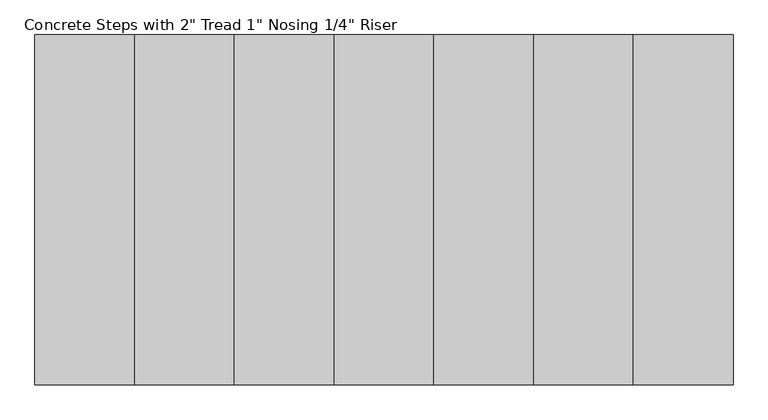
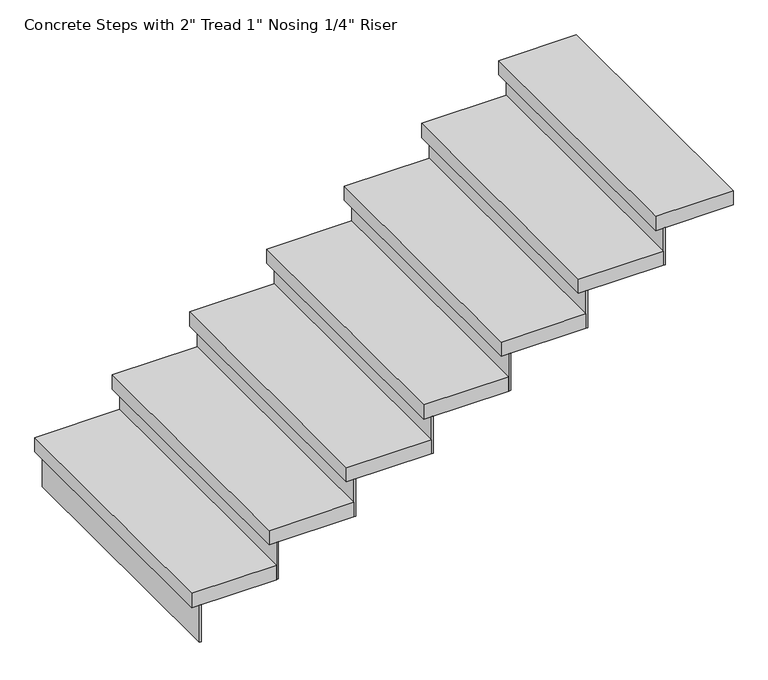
"""IFC4 building model written with IfcOpenShell, lengths in millimetres: stair flight geometry."""

from ifc_helpers import new_model, si_unit, frame, origin, place, context, project, spatial, polyline, outline, extrude, source, transform, mapped, element, save


def stair_flight_978e4ef8(model_context):
    return source(origin(), model_context, "Body", "SweptSolid", [
        extrude(outline(polyline([(7000.1373344, 3693.559649), (6993.7873344, 3693.559649), (6993.7873344, 4607.959649), (7000.1373344, 4607.959649), (7000.1373344, 3693.559649)])), frame((0.0, 0.0, 2069.5478261), z_axis=(0.0, 0.0, 1.0), x_axis=(1.0, 0.0, 0.0)), (0.0, 0.0, 1.0), 132.5217391),
        extrude(outline(polyline([(7254.1373344, 4607.959649), (7254.1373344, 3693.559649), (6968.3873344, 3693.559649), (6968.3873344, 4607.959649), (7254.1373344, 4607.959649)])), frame((0.0, 0.0, 2202.0695652), z_axis=(0.0, 0.0, 1.0), x_axis=(1.0, 0.0, 0.0)), (0.0, 0.0, 1.0), 50.8),
        extrude(outline(polyline([(7260.4873344, 3693.559649), (7254.1373344, 3693.559649), (7254.1373344, 4607.959649), (7260.4873344, 4607.959649), (7260.4873344, 3693.559649)])), frame((0.0, 0.0, 2202.0695652), z_axis=(0.0, 0.0, 1.0), x_axis=(1.0, 0.0, 0.0)), (0.0, 0.0, 1.0), 132.5217391),
        extrude(outline(polyline([(7514.4873344, 4607.959649), (7514.4873344, 3693.559649), (7228.7373344, 3693.559649), (7228.7373344, 4607.959649), (7514.4873344, 4607.959649)])), frame((0.0, 0.0, 2334.5913043), z_axis=(0.0, 0.0, 1.0), x_axis=(1.0, 0.0, 0.0)), (0.0, 0.0, 1.0), 50.8),
        extrude(outline(polyline([(7520.8373344, 3693.559649), (7514.4873344, 3693.559649), (7514.4873344, 4607.959649), (7520.8373344, 4607.959649), (7520.8373344, 3693.559649)])), frame((0.0, 0.0, 2334.5913043), z_axis=(0.0, 0.0, 1.0), x_axis=(1.0, 0.0, 0.0)), (0.0, 0.0, 1.0), 132.5217391),
        extrude(outline(polyline([(7774.8373344, 4607.959649), (7774.8373344, 3693.559649), (7489.0873344, 3693.559649), (7489.0873344, 4607.959649), (7774.8373344, 4607.959649)])), frame((0.0, 0.0, 2467.1130435), z_axis=(0.0, 0.0, 1.0), x_axis=(1.0, 0.0, 0.0)), (0.0, 0.0, 1.0), 50.8),
        extrude(outline(polyline([(7781.1873344, 3693.559649), (7774.8373344, 3693.559649), (7774.8373344, 4607.959649), (7781.1873344, 4607.959649), (7781.1873344, 3693.559649)])), frame((0.0, 0.0, 2467.1130435), z_axis=(0.0, 0.0, 1.0), x_axis=(1.0, 0.0, 0.0)), (0.0, 0.0, 1.0), 132.5217391),
        extrude(outline(polyline([(8035.1873344, 4607.959649), (8035.1873344, 3693.559649), (7749.4373344, 3693.559649), (7749.4373344, 4607.959649), (8035.1873344, 4607.959649)])), frame((0.0, 0.0, 2599.6347826), z_axis=(0.0, 0.0, 1.0), x_axis=(1.0, 0.0, 0.0)), (0.0, 0.0, 1.0), 50.8),
        extrude(outline(polyline([(8041.5373344, 3693.559649), (8035.1873344, 3693.559649), (8035.1873344, 4607.959649), (8041.5373344, 4607.959649), (8041.5373344, 3693.559649)])), frame((0.0, 0.0, 2599.6347826), z_axis=(0.0, 0.0, 1.0), x_axis=(1.0, 0.0, 0.0)), (0.0, 0.0, 1.0), 132.5217391),
        extrude(outline(polyline([(8295.5373344, 4607.959649), (8295.5373344, 3693.559649), (8009.7873344, 3693.559649), (8009.7873344, 4607.959649), (8295.5373344, 4607.959649)])), frame((0.0, 0.0, 2732.1565217), z_axis=(0.0, 0.0, 1.0), x_axis=(1.0, 0.0, 0.0)), (0.0, 0.0, 1.0), 50.8),
        extrude(outline(polyline([(8301.8873344, 3693.559649), (8295.5373344, 3693.559649), (8295.5373344, 4607.959649), (8301.8873344, 4607.959649), (8301.8873344, 3693.559649)])), frame((0.0, 0.0, 2732.1565217), z_axis=(0.0, 0.0, 1.0), x_axis=(1.0, 0.0, 0.0)), (0.0, 0.0, 1.0), 132.5217391),
        extrude(outline(polyline([(8555.8873344, 4607.959649), (8555.8873344, 3693.559649), (8270.1373344, 3693.559649), (8270.1373344, 4607.959649), (8555.8873344, 4607.959649)])), frame((0.0, 0.0, 2864.6782609), z_axis=(0.0, 0.0, 1.0), x_axis=(1.0, 0.0, 0.0)), (0.0, 0.0, 1.0), 50.8),
        extrude(outline(polyline([(8562.2373344, 3693.559649), (8555.8873344, 3693.559649), (8555.8873344, 4607.959649), (8562.2373344, 4607.959649), (8562.2373344, 3693.559649)])), frame((0.0, 0.0, 2864.6782609), z_axis=(0.0, 0.0, 1.0), x_axis=(1.0, 0.0, 0.0)), (0.0, 0.0, 1.0), 132.5217391),
        extrude(outline(polyline([(8790.8373344, 4607.959649), (8790.8373344, 3693.559649), (8530.4873344, 3693.559649), (8530.4873344, 4607.959649), (8790.8373344, 4607.959649)])), frame((0.0, 0.0, 2997.2), z_axis=(0.0, 0.0, 1.0), x_axis=(1.0, 0.0, 0.0)), (0.0, 0.0, 1.0), 50.8),
    ])


if __name__ == "__main__":
    model = new_model("IFC4")
    model_context = context("Model", 3, world=origin())
    ifc_project = project(units=[si_unit("LENGTHUNIT", "METRE", prefix="MILLI")], contexts=[model_context])
    site = spatial("IfcSite", under=ifc_project)
    building = spatial("IfcBuilding", under=site)
    placement = place(None, origin())
    stair_flight_shape = stair_flight_978e4ef8(model_context)
    element("IfcStairFlight", 1, ObjectType="Concrete Steps with 2\" Tread 1\" Nosing 1/4\" Riser", at=placement, inside=building, context=model_context, shape_type="MappedRepresentation", body=[
        mapped(stair_flight_shape, transform((0.0, 0.0, 0.0), x_axis=(1.0, 0.0, 0.0), y_axis=(0.0, 1.0, 0.0), z_axis=(0.0, 0.0, 1.0))),
    ])
    save(model, "model.ifc")
